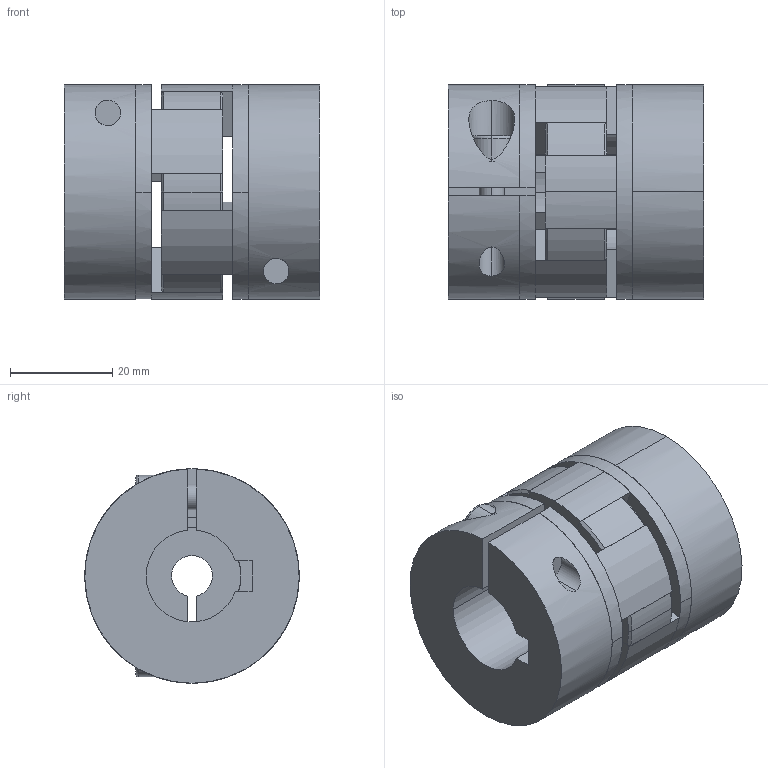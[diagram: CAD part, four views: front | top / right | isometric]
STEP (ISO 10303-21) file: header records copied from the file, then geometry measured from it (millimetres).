
FILE_DESCRIPTION (( 'STEP AP214' ), '1' );
FILE_NAME ('ELC-00020_A.STEP', '2021-03-08T22:55:46', ( '' ), ( '' ), 'SwSTEP 2.0', 'SolidWorks 2021', '' );
FILE_SCHEMA (( 'AUTOMOTIVE_DESIGN' ));
Length unit declared in the file: millimetre
Products named in the file (1): ELC-00020_A
Bounding box: 50 x 42 x 42 mm (x, y, z)
Volume: 54627.8 mm3; surface area: 16123.3 mm2
Topology: 1 solids, 1 shells, 140 faces, 400 edges, 261 vertices
Faces by surface type: plane 63, cylinder 57, cone 16, torus 4
Entity records: 6237 total; most frequent: CARTESIAN_POINT 1754, ORIENTED_EDGE 800, DIRECTION 784, EDGE_CURVE 400, AXIS2_PLACEMENT_3D 285, VERTEX_POINT 261, LINE 214, VECTOR 214
